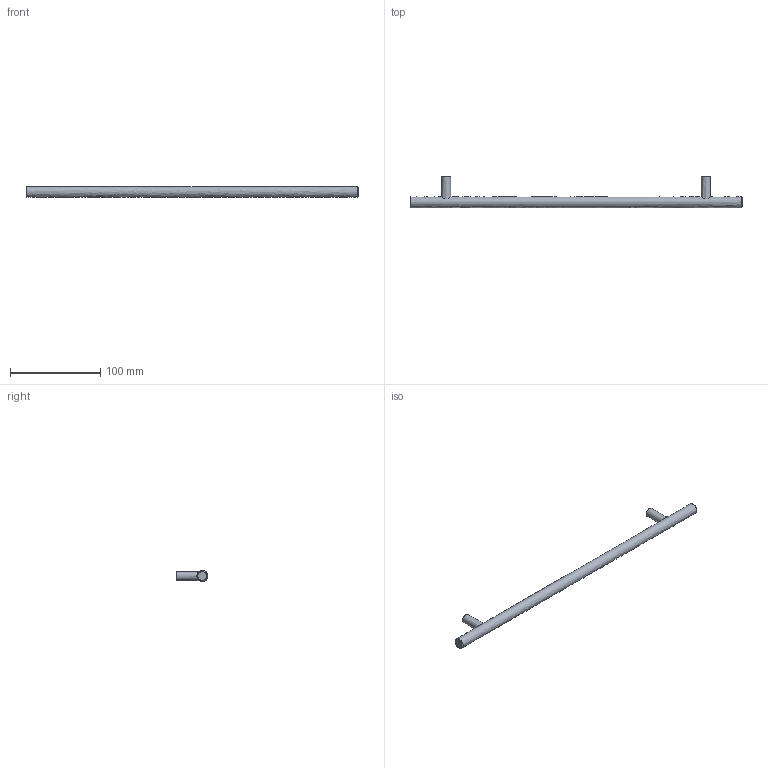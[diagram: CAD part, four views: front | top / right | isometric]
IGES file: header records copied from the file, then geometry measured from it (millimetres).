
Start section: Data from Parasolid IGES Translator 15.0.47, Copyright(c) 2006 Siemens P LM Software. All Rights Reserved.
Global section: file name: 9070759.igs; native system:  By UGS Corp.; preprocessor: XPlus GENERIC/IGES 3.0; author: Noname; organization: Noname; date: 20140123.103904; units: millimetre
Bounding box: 368 x 35 x 12 mm (x, y, z)
Surface area: 15771 mm2 (no closed solid volume)
Topology: 0 solids, 0 shells, 13 faces, 42 edges, 34 vertices
Faces by surface type: revolution 7, extrusion 6
